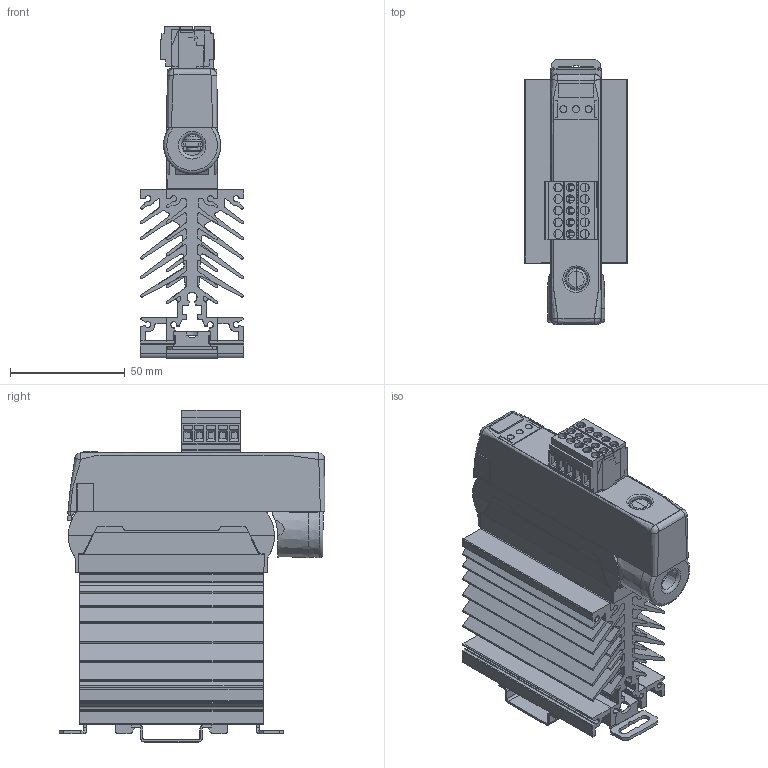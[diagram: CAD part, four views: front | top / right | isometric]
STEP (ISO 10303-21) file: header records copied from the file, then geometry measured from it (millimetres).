
FILE_DESCRIPTION((''),'2;1');
FILE_NAME('R:\Stock\3D pour clients\CELDUC references\2D3D 602 A.stp','2012-08-08T15:47:32',('Georges THOLLOT ','Tl : +33 (0)4 77 53 90 27','gthollot@celduc.com'),('Celduc r e l a i s','5, rue Ampre, BP 30004','42290 SORBIERS - France','Fax. : +33 (0)4 77 53 85 51','N siret 353 310 519 00015','ISO 9001 N QUAL/1993/1106b','www.celduc.com'),'Autodesk Inventor 2010','Autodesk Inventor 2010','');
FILE_SCHEMA(('CONFIG_CONTROL_DESIGN'));
Length unit declared in the file: millimetre
Products named in the file (12): ESUC sur SUL; WF311100; NF E 25-514 Z4 - 160 HV; ISO 4762 M4 x 20; SU (2 lids removed); ESUC0450; BLZF 5.08/5 SN SW 1707720000; blzf_5_08_5_90_sn_sw_1671050000_2_14b; BLZ 5.08/5/90 SN SW 1553010000; bldt_5_08_5_sn_sw_1660740000_2_14b; BLZF 5.08/5 SN OR 1707490000; WF151200
Assembly tree (13 placements, depth 2):
  ESUC sur SUL
    WF311100
    NF E 25-514 Z4 - 160 HV  x2
    ISO 4762 M4 x 20  x2
    SU (2 lids removed)
    ESUC0450
    BLZF 5.08/5 SN SW 1707720000
    blzf_5_08_5_90_sn_sw_1671050000_2_14b
    BLZ 5.08/5/90 SN SW 1553010000
    bldt_5_08_5_sn_sw_1660740000_2_14b
    BLZF 5.08/5 SN OR 1707490000
    WF151200
Bounding box: 45.03 x 116.03 x 144.86 mm (x, y, z)
Volume: 306106.8 mm3; surface area: 170031.8 mm2
Topology: 17 solids, 17 shells, 2693 faces, 7283 edges, 4721 vertices
Faces by surface type: plane 1668, cylinder 675, bspline 239, cone 94, torus 15, sphere 2
Full cylindrical faces by diameter (mm): 1.95 x2, 2.1 x2, 3 x1, 3.6 x5, 3.8 x10, 3.9 x10, 4 x2, 4.3 x2, 4.5 x1, 4.567 x2, 4.7 x10, 5 x2, 5.5 x1, 7 x2, 8 x2, 8.662 x2, 9 x1
Entity records: 93635 total; most frequent: CARTESIAN_POINT 24966, ORIENTED_EDGE 14120, DIRECTION 13186, EDGE_CURVE 7060, VECTOR 5118, LINE 5118, VERTEX_POINT 4667, AXIS2_PLACEMENT_3D 4034
